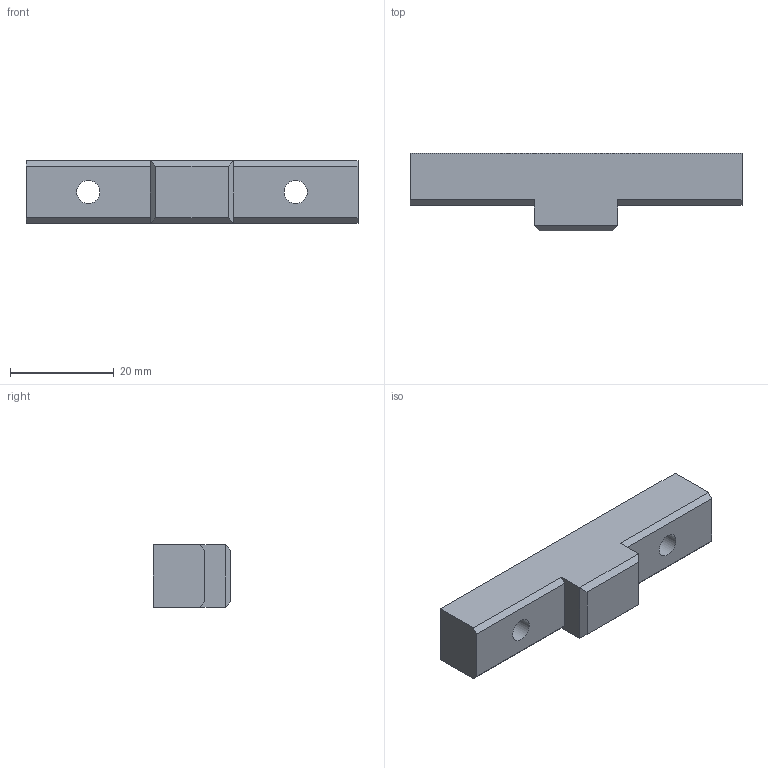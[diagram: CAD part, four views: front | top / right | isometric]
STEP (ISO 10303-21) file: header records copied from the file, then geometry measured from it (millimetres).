
FILE_DESCRIPTION(/* description */ (''),/* implementation_level */ '2;1');
FILE_NAME(/* name */ '',/* time_stamp */ '2024-10-25T13:30:08+09:00',/* author */ ('jhkim'),/* organization */ (''),/* preprocessor_version */ 'ST-DEVELOPER v20',/* originating_system */ 'Autodesk Inventor 2025',/* authorisation */ '');
FILE_SCHEMA (('AUTOMOTIVE_DESIGN { 1 0 10303 214 3 1 1 }'));
Length unit declared in the file: millimetre
Products named in the file (1): 스톱퍼
Bounding box: 64 x 15 x 12 mm (x, y, z)
Volume: 7944.9 mm3; surface area: 3561.2 mm2
Topology: 1 solids, 1 shells, 24 faces, 56 edges, 36 vertices
Faces by surface type: plane 20, cylinder 4
Full cylindrical faces by diameter (mm): 4.5 x2, 8 x2
Entity records: 727 total; most frequent: CARTESIAN_POINT 117, DIRECTION 114, ORIENTED_EDGE 112, EDGE_CURVE 56, LINE 48, VECTOR 48, VERTEX_POINT 36, AXIS2_PLACEMENT_3D 33
